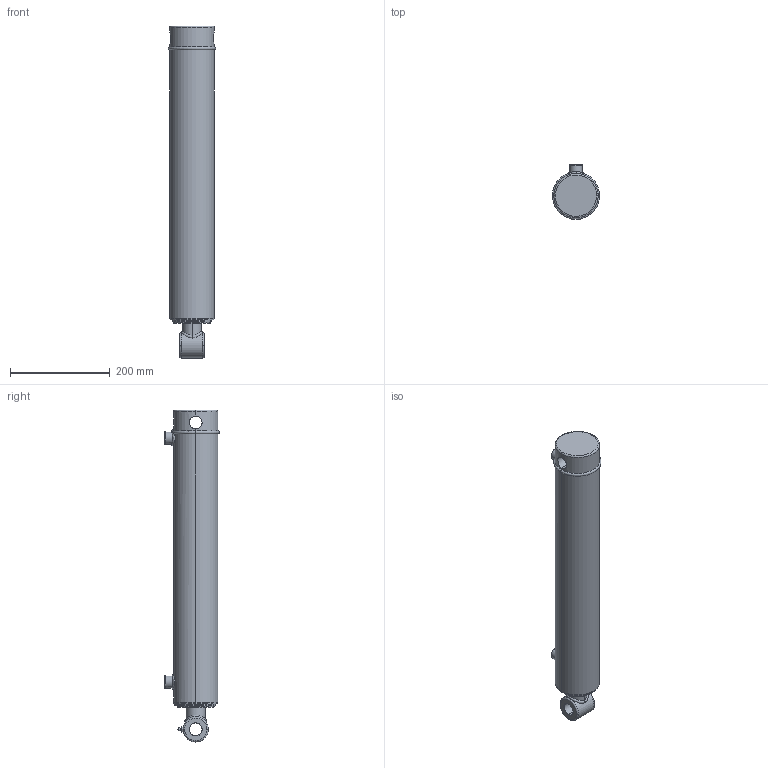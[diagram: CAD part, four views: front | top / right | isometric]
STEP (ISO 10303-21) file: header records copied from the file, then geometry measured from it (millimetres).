
FILE_DESCRIPTION (( 'STEP AP203' ), '1' );
FILE_NAME ('SB-C3001550x457 (18).STEP', '2014-11-19T21:31:25', ( '' ), ( '' ), 'SwSTEP 2.0', 'SolidWorks 2014', '' );
FILE_SCHEMA (( 'CONFIG_CONTROL_DESIGN' ));
Length unit declared in the file: millimetre
Products named in the file (7): 18 SPARE; 18 NPT GREASE NIPPLE; SB-C300150x457 (18) BODY; SPARE 18; 3 inch circlip; SB-C3001550x457 (18); SB-C3001550x457 (18) body
Assembly tree (6 placements, depth 3):
  SB-C3001550x457 (18)
    SB-C3001550x457 (18) body
      SB-C300150x457 (18) BODY
      3 inch circlip
    SPARE 18
      18 SPARE
      18 NPT GREASE NIPPLE
Bounding box: 94.9 x 109.9 x 665.4 mm (x, y, z)
Volume: 4061590.2 mm3; surface area: 305381.7 mm2
Topology: 4 solids, 4 shells, 133 faces, 306 edges, 190 vertices
Faces by surface type: cylinder 51, plane 29, cone 22, bspline 18, torus 11, sphere 2
Entity records: 10452 total; most frequent: CARTESIAN_POINT 6772, DIRECTION 638, ORIENTED_EDGE 604, EDGE_CURVE 302, AXIS2_PLACEMENT_3D 270, VERTEX_POINT 190, EDGE_LOOP 158, CIRCLE 144
